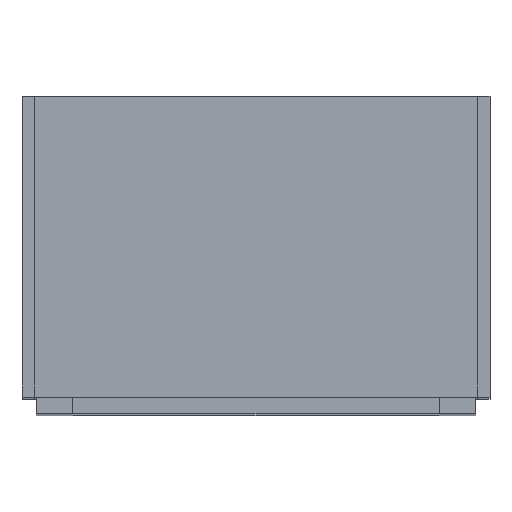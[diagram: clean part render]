
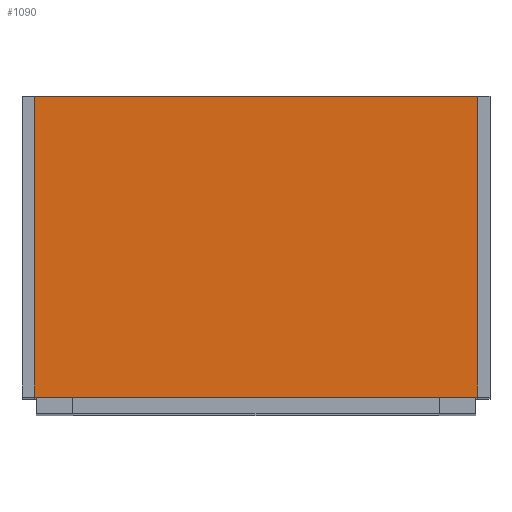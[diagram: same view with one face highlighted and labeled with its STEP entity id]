
A CAD part, top view. The second image highlights one B-rep face of the part: STEP entity #1090.
In plain terms, the highlighted planar face has unit normal (0, 0, 1).
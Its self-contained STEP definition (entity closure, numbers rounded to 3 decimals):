
#776 = VERTEX_POINT('',#777);
#777 = CARTESIAN_POINT('',(18.,0.,1800.));
#784 = PLANE('',#785);
#785 = AXIS2_PLACEMENT_3D('',#786,#787,#788);
#786 = CARTESIAN_POINT('',(18.,0.,1782.));
#787 = DIRECTION('',(1.,0.,0.));
#788 = DIRECTION('',(0.,0.,1.));
#796 = PLANE('',#797);
#797 = AXIS2_PLACEMENT_3D('',#798,#799,#800);
#798 = CARTESIAN_POINT('',(18.,0.,1782.));
#799 = DIRECTION('',(0.,1.,0.));
#800 = DIRECTION('',(0.,0.,1.));
#837 = VERTEX_POINT('',#838);
#838 = CARTESIAN_POINT('',(18.,450.,1800.));
#852 = PLANE('',#853);
#853 = AXIS2_PLACEMENT_3D('',#854,#855,#856);
#854 = CARTESIAN_POINT('',(18.,450.,1782.));
#855 = DIRECTION('',(0.,1.,0.));
#856 = DIRECTION('',(0.,0.,1.));
#864 = EDGE_CURVE('',#776,#837,#865,.T.);
#865 = SURFACE_CURVE('',#866,(#870,#877),.PCURVE_S1.);
#866 = LINE('',#867,#868);
#867 = CARTESIAN_POINT('',(18.,0.,1800.));
#868 = VECTOR('',#869,1.);
#869 = DIRECTION('',(0.,1.,0.));
#870 = PCURVE('',#784,#871);
#871 = DEFINITIONAL_REPRESENTATION('',(#872),#876);
#872 = LINE('',#873,#874);
#873 = CARTESIAN_POINT('',(18.,0.));
#874 = VECTOR('',#875,1.);
#875 = DIRECTION('',(0.,-1.));
#876 = ( GEOMETRIC_REPRESENTATION_CONTEXT(2) 
PARAMETRIC_REPRESENTATION_CONTEXT() REPRESENTATION_CONTEXT('2D SPACE',''
  ) );
#877 = PCURVE('',#878,#883);
#878 = PLANE('',#879);
#879 = AXIS2_PLACEMENT_3D('',#880,#881,#882);
#880 = CARTESIAN_POINT('',(18.,0.,1800.));
#881 = DIRECTION('',(0.,0.,1.));
#882 = DIRECTION('',(1.,0.,0.));
#883 = DEFINITIONAL_REPRESENTATION('',(#884),#888);
#884 = LINE('',#885,#886);
#885 = CARTESIAN_POINT('',(0.,0.));
#886 = VECTOR('',#887,1.);
#887 = DIRECTION('',(0.,1.));
#888 = ( GEOMETRIC_REPRESENTATION_CONTEXT(2) 
PARAMETRIC_REPRESENTATION_CONTEXT() REPRESENTATION_CONTEXT('2D SPACE',''
  ) );
#896 = VERTEX_POINT('',#897);
#897 = CARTESIAN_POINT('',(682.,0.,1800.));
#904 = PLANE('',#905);
#905 = AXIS2_PLACEMENT_3D('',#906,#907,#908);
#906 = CARTESIAN_POINT('',(682.,0.,1782.));
#907 = DIRECTION('',(1.,0.,0.));
#908 = DIRECTION('',(0.,0.,1.));
#947 = VERTEX_POINT('',#948);
#948 = CARTESIAN_POINT('',(682.,450.,1800.));
#969 = EDGE_CURVE('',#896,#947,#970,.T.);
#970 = SURFACE_CURVE('',#971,(#975,#982),.PCURVE_S1.);
#971 = LINE('',#972,#973);
#972 = CARTESIAN_POINT('',(682.,0.,1800.));
#973 = VECTOR('',#974,1.);
#974 = DIRECTION('',(0.,1.,0.));
#975 = PCURVE('',#904,#976);
#976 = DEFINITIONAL_REPRESENTATION('',(#977),#981);
#977 = LINE('',#978,#979);
#978 = CARTESIAN_POINT('',(18.,0.));
#979 = VECTOR('',#980,1.);
#980 = DIRECTION('',(0.,-1.));
#981 = ( GEOMETRIC_REPRESENTATION_CONTEXT(2) 
PARAMETRIC_REPRESENTATION_CONTEXT() REPRESENTATION_CONTEXT('2D SPACE',''
  ) );
#982 = PCURVE('',#878,#983);
#983 = DEFINITIONAL_REPRESENTATION('',(#984),#988);
#984 = LINE('',#985,#986);
#985 = CARTESIAN_POINT('',(664.,0.));
#986 = VECTOR('',#987,1.);
#987 = DIRECTION('',(0.,1.));
#988 = ( GEOMETRIC_REPRESENTATION_CONTEXT(2) 
PARAMETRIC_REPRESENTATION_CONTEXT() REPRESENTATION_CONTEXT('2D SPACE',''
  ) );
#1015 = EDGE_CURVE('',#776,#896,#1016,.T.);
#1016 = SURFACE_CURVE('',#1017,(#1021,#1028),.PCURVE_S1.);
#1017 = LINE('',#1018,#1019);
#1018 = CARTESIAN_POINT('',(18.,0.,1800.));
#1019 = VECTOR('',#1020,1.);
#1020 = DIRECTION('',(1.,0.,0.));
#1021 = PCURVE('',#796,#1022);
#1022 = DEFINITIONAL_REPRESENTATION('',(#1023),#1027);
#1023 = LINE('',#1024,#1025);
#1024 = CARTESIAN_POINT('',(18.,0.));
#1025 = VECTOR('',#1026,1.);
#1026 = DIRECTION('',(0.,1.));
#1027 = ( GEOMETRIC_REPRESENTATION_CONTEXT(2) 
PARAMETRIC_REPRESENTATION_CONTEXT() REPRESENTATION_CONTEXT('2D SPACE',''
  ) );
#1028 = PCURVE('',#878,#1029);
#1029 = DEFINITIONAL_REPRESENTATION('',(#1030),#1034);
#1030 = LINE('',#1031,#1032);
#1031 = CARTESIAN_POINT('',(0.,0.));
#1032 = VECTOR('',#1033,1.);
#1033 = DIRECTION('',(1.,0.));
#1034 = ( GEOMETRIC_REPRESENTATION_CONTEXT(2) 
PARAMETRIC_REPRESENTATION_CONTEXT() REPRESENTATION_CONTEXT('2D SPACE',''
  ) );
#1062 = EDGE_CURVE('',#837,#947,#1063,.T.);
#1063 = SURFACE_CURVE('',#1064,(#1068,#1075),.PCURVE_S1.);
#1064 = LINE('',#1065,#1066);
#1065 = CARTESIAN_POINT('',(18.,450.,1800.));
#1066 = VECTOR('',#1067,1.);
#1067 = DIRECTION('',(1.,0.,0.));
#1068 = PCURVE('',#852,#1069);
#1069 = DEFINITIONAL_REPRESENTATION('',(#1070),#1074);
#1070 = LINE('',#1071,#1072);
#1071 = CARTESIAN_POINT('',(18.,0.));
#1072 = VECTOR('',#1073,1.);
#1073 = DIRECTION('',(0.,1.));
#1074 = ( GEOMETRIC_REPRESENTATION_CONTEXT(2) 
PARAMETRIC_REPRESENTATION_CONTEXT() REPRESENTATION_CONTEXT('2D SPACE',''
  ) );
#1075 = PCURVE('',#878,#1076);
#1076 = DEFINITIONAL_REPRESENTATION('',(#1077),#1081);
#1077 = LINE('',#1078,#1079);
#1078 = CARTESIAN_POINT('',(0.,450.));
#1079 = VECTOR('',#1080,1.);
#1080 = DIRECTION('',(1.,0.));
#1081 = ( GEOMETRIC_REPRESENTATION_CONTEXT(2) 
PARAMETRIC_REPRESENTATION_CONTEXT() REPRESENTATION_CONTEXT('2D SPACE',''
  ) );
#1090 = ADVANCED_FACE('',(#1091),#878,.T.);
#1091 = FACE_BOUND('',#1092,.T.);
#1092 = EDGE_LOOP('',(#1093,#1094,#1095,#1096));
#1093 = ORIENTED_EDGE('',*,*,#864,.F.);
#1094 = ORIENTED_EDGE('',*,*,#1015,.T.);
#1095 = ORIENTED_EDGE('',*,*,#969,.T.);
#1096 = ORIENTED_EDGE('',*,*,#1062,.F.);
